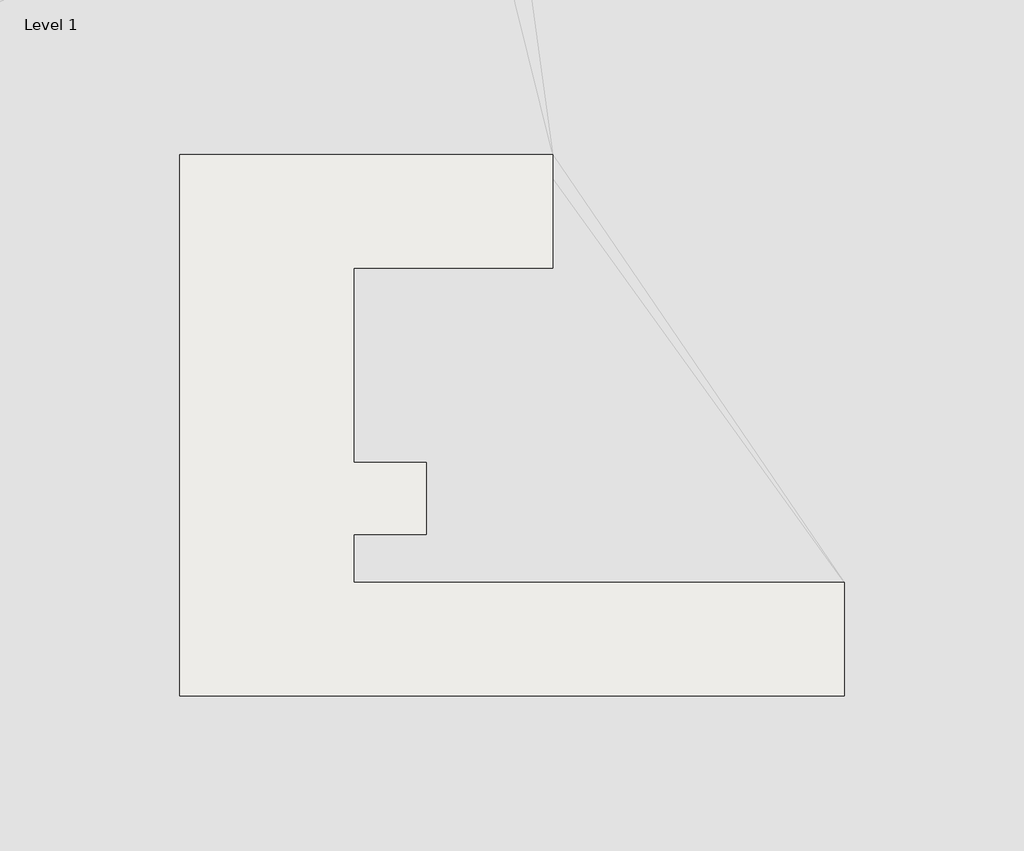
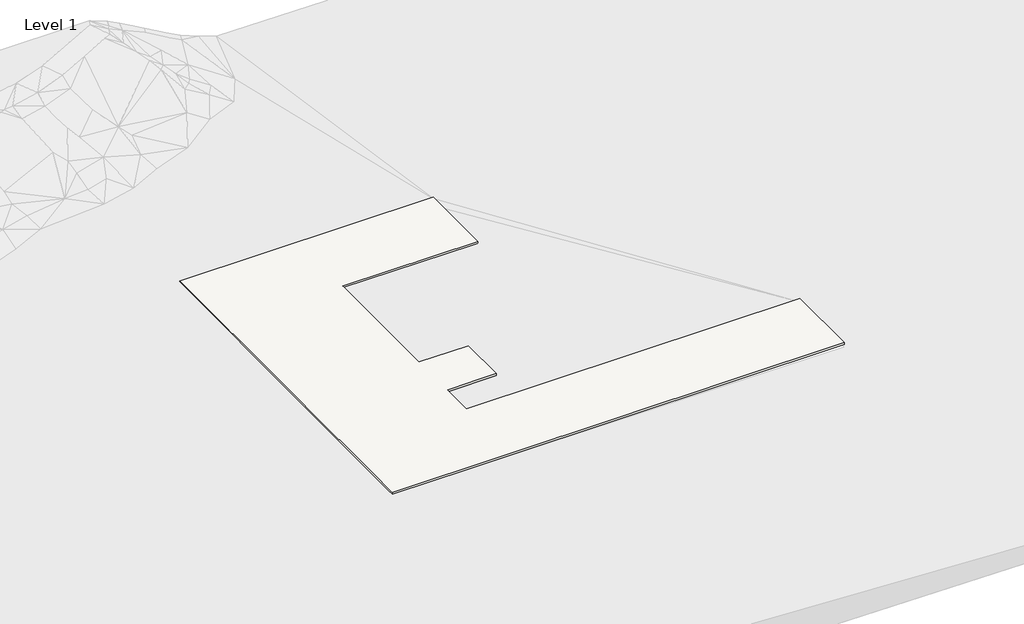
# One storey, part 1 of 2: 1 slab.
"""IFC4 building model written with IfcOpenShell, lengths in millimetres."""

import ifcopenshell
import ifcopenshell.guid

model = None  # the IFC model being written
_history = None  # IfcOwnerHistory: only IFC2X3 demands one
_inside = {}  # id of a spatial element -> (the spatial element, [elements in it])
_under = {}  # id of a project, library or spatial element -> (it, [spatial elements below it])
_declared = {}  # id of a project -> (the project, [libraries it declares])
_typed = {}  # id of a type object -> (the type object, [elements of that type])
_made_of = {}  # id of a material, layer set ... -> (it, [elements and type objects made of it])


def new_model(schema):
    """Start an empty IFC model of exactly this schema.

    Asked for "IFC4X3", IfcOpenShell would pick the latest addendum, in which some entities
    have other attributes; the version numbers below select the first issue.
    IFC2X3 requires an IfcOwnerHistory on every rooted entity: one is made here for all.
    """
    global model, _history
    if schema == "IFC4X3":
        model = ifcopenshell.file(schema_version=(4, 3, 0, 0))
    else:
        model = ifcopenshell.file(schema=schema)
    _inside.clear()
    _under.clear()
    _declared.clear()
    _typed.clear()
    _made_of.clear()
    _history = None
    if model.schema == "IFC2X3":
        org = make("IfcOrganization", Name="unknown")
        user = make(
            "IfcPersonAndOrganization",
            ThePerson=make("IfcPerson", FamilyName="unknown"),
            TheOrganization=org,
        )
        app = make(
            "IfcApplication",
            ApplicationDeveloper=org,
            Version="unknown",
            ApplicationFullName="unknown",
            ApplicationIdentifier="unknown",
        )
        _history = make(
            "IfcOwnerHistory",
            OwningUser=user,
            OwningApplication=app,
            ChangeAction="ADDED",
            CreationDate=0,
        )
    return model


def make(cls, **values):
    """One entity of the class cls with the attributes given. An attribute that is None is left unset."""
    return model.create_entity(
        cls, **{name: value for name, value in values.items() if value is not None}
    )


def rooted(cls, **values):
    """An entity with a GlobalId (a new one), such as an element, a storey or a relation."""
    return make(cls, GlobalId=ifcopenshell.guid.new(), OwnerHistory=_history, **values)


def si_unit(unit_type, name, prefix=None):
    """IfcSIUnit, for example si_unit("LENGTHUNIT", "METRE", prefix="MILLI")."""
    return make("IfcSIUnit", UnitType=unit_type, Prefix=prefix, Name=name)


def assignment(units):
    """IfcUnitAssignment: the units of a project."""
    return None if units is None else make("IfcUnitAssignment", Units=units)


def point(xyz):
    """IfcCartesianPoint."""
    return None if xyz is None else make("IfcCartesianPoint", Coordinates=xyz)


def direction(xyz):
    """IfcDirection."""
    return None if xyz is None else make("IfcDirection", DirectionRatios=xyz)


def frame(location, z_axis=None, x_axis=None):
    """IfcAxis2Placement3D, a coordinate frame: its origin and axes. An axis left out is left unset."""
    return make(
        "IfcAxis2Placement3D",
        Location=point(location),
        Axis=direction(z_axis),
        RefDirection=direction(x_axis),
    )


def origin():
    """The frame at (0, 0, 0) with its axes left unset."""
    return frame((0.0, 0.0, 0.0))


def place(relative_to, where):
    """IfcLocalPlacement: puts the frame where relative to a parent placement (None: the world)."""
    return make(
        "IfcLocalPlacement", PlacementRelTo=relative_to, RelativePlacement=where
    )


def context(
    kind, dimensions, precision=None, world=None, true_north=None, identifier=None
):
    """IfcGeometricRepresentationContext, for example the 3D "Model" context."""
    return make(
        "IfcGeometricRepresentationContext",
        ContextIdentifier=identifier,
        ContextType=kind,
        CoordinateSpaceDimension=dimensions,
        Precision=precision,
        WorldCoordinateSystem=world,
        TrueNorth=true_north,
    )


def project(units=None, contexts=None):
    """IfcProject with its units and contexts."""
    return rooted(
        "IfcProject",
        Name="project",
        RepresentationContexts=contexts,
        UnitsInContext=assignment(units),
    )


def spatial(cls, under=None, at=None, **own):
    """A site, building, storey or space (cls), placed at a placement, below another one or the project."""
    s = rooted(cls, ObjectPlacement=at, **own)
    if under is not None:
        _under.setdefault(under.id(), (under, []))[1].append(s)
    return s


def polyline(points):
    """IfcPolyline through the points."""
    return make("IfcPolyline", Points=[point(p) for p in points])


def outline(outer, holes=None, kind="AREA"):
    """IfcArbitraryClosedProfileDef: a profile drawn as a closed curve; with holes, ...WithVoids."""
    if holes is None:
        return make("IfcArbitraryClosedProfileDef", ProfileType=kind, OuterCurve=outer)
    return make(
        "IfcArbitraryProfileDefWithVoids",
        ProfileType=kind,
        OuterCurve=outer,
        InnerCurves=holes,
    )


def extrude(swept, where, along, depth):
    """IfcExtrudedAreaSolid: the profile swept, set in the frame where, extruded along a direction by depth."""
    return make(
        "IfcExtrudedAreaSolid",
        SweptArea=swept,
        Position=where,
        ExtrudedDirection=direction(along),
        Depth=depth,
    )


def shape(context_of_items, identifier, shape_type, items):
    """IfcShapeRepresentation: the items that make up one representation, for example the "Body"."""
    return make(
        "IfcShapeRepresentation",
        ContextOfItems=context_of_items,
        RepresentationIdentifier=identifier,
        RepresentationType=shape_type,
        Items=items,
    )


def made_of(thing, what):
    """Note that an element or type object is made of a material, layer set ...; save() writes the relation."""
    if what is not None:
        _made_of.setdefault(what.id(), (what, []))[1].append(thing)
    return thing


def element(
    cls,
    number,
    at=None,
    inside=None,
    cuts=None,
    type_object=None,
    material=None,
    context=None,
    identifier="Body",
    shape_type=None,
    held_by="IfcProductDefinitionShape",
    body=None,
    shapes=None,
    **own,
):
    """One element of the class cls, such as IfcWall. Its Tag is "e" and its number.

    at: its placement. inside: the storey or other place that contains it. cuts: it is an
    opening in that element (IfcRelVoidsElement). A single representation is given by context,
    identifier, shape_type and body (its items); several are given by shapes. held_by: the class
    of the entity that holds the representations. save() writes the other relations.
    """
    e = rooted(cls, Tag="e%d" % number, ObjectPlacement=at, **own)
    if body is not None:
        shapes = [shape(context, identifier, shape_type, body)]
    if shapes is not None:
        e.Representation = make(held_by, Representations=shapes)
    if inside is not None:
        _inside.setdefault(inside.id(), (inside, []))[1].append(e)
    if cuts is not None:
        rooted(
            "IfcRelVoidsElement", RelatingBuildingElement=cuts, RelatedOpeningElement=e
        )
    if type_object is not None:
        _typed.setdefault(type_object.id(), (type_object, []))[1].append(e)
    return made_of(e, material)


def aggregate(whole, parts):
    """IfcRelAggregates: a whole, such as a stair, and the parts it consists of."""
    return rooted("IfcRelAggregates", RelatingObject=whole, RelatedObjects=parts)


def save(model, path):
    """Write the relations noted so far, then the file.

    IfcRelAggregates (storeys below a building ...), IfcRelContainedInSpatialStructure (elements
    in a storey), IfcRelDefinesByType, IfcRelAssociatesMaterial and IfcRelDeclares: one each for
    every whole, place, type object, material and project.
    """
    for whole, parts in _under.values():
        aggregate(whole, parts)
    for where, things in _inside.values():
        rooted(
            "IfcRelContainedInSpatialStructure",
            RelatedElements=things,
            RelatingStructure=where,
        )
    for kind, things in _typed.values():
        rooted("IfcRelDefinesByType", RelatedObjects=things, RelatingType=kind)
    for what, things in _made_of.values():
        rooted("IfcRelAssociatesMaterial", RelatedObjects=things, RelatingMaterial=what)
    for by, libraries in _declared.values():
        rooted("IfcRelDeclares", RelatingContext=by, RelatedDefinitions=libraries)
    model.write(path)


model = new_model("IFC4")

# Units and contexts
model_context = context("Model", 3, world=origin())
ifc_project = project(units=[si_unit("LENGTHUNIT", "METRE", prefix="MILLI")], contexts=[model_context])

# Site, building, storey
site = spatial("IfcSite", under=ifc_project)
building = spatial("IfcBuilding", under=site)
storey = spatial("IfcBuildingStorey", under=building, Name="Level 1", Elevation=0.0)

# Slab
placement = place(None, origin())
element("IfcSlab", 1, ObjectType="Pad 1", at=placement, inside=storey, context=model_context, shape_type="SweptSolid", body=[
    extrude(outline(polyline([(27411.8999097, 30818.5799804), (27411.8999097, 19414.8392059), (7447.5010724, 19414.8392059), (7447.5010724, -89.4607941), (14709.0902051, -89.4607941), (14709.0902051, -7283.8611817), (7447.5010724, -7283.8611817), (7447.5010724, -12132.3615692), (56699.1173382, -12132.3615692), (56699.1173382, -23510.7006057), (-10026.8386635, -23510.7006057), (-10026.8386635, 30818.5799804), (27411.8999097, 30818.5799804)])), frame((0.0, 0.0, -304.8), z_axis=(0.0, 0.0, 1.0), x_axis=(1.0, 0.0, 0.0)), (0.0, 0.0, 1.0), 304.8),
])

save(model, "model.ifc")
